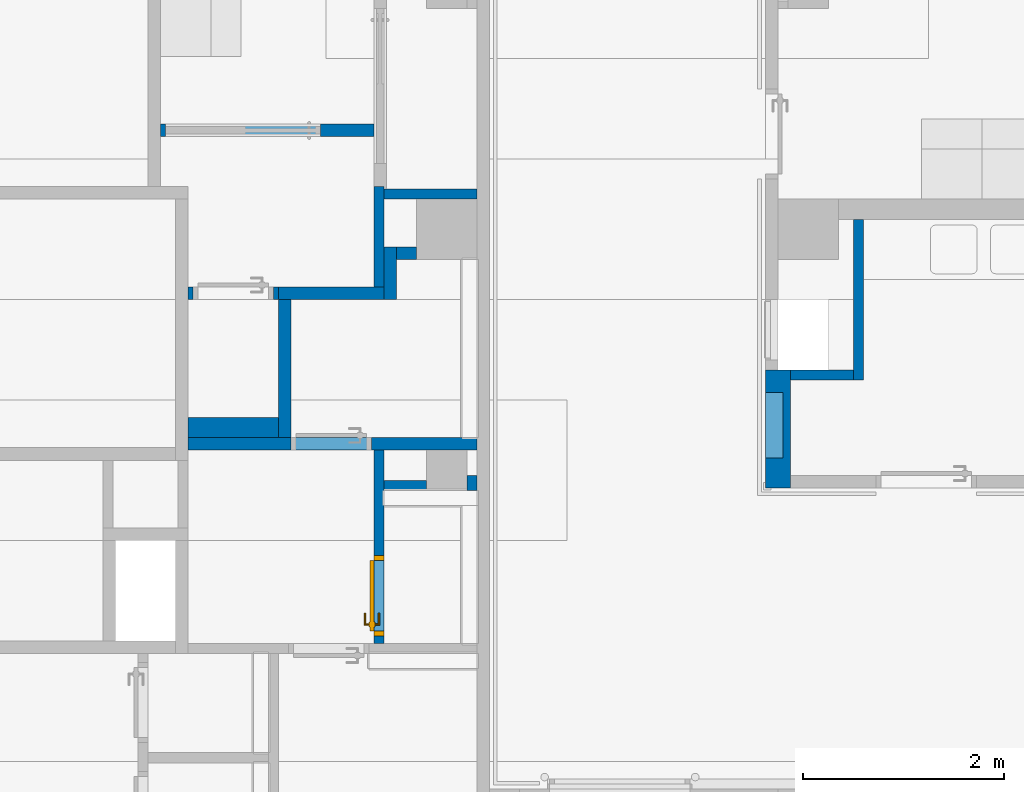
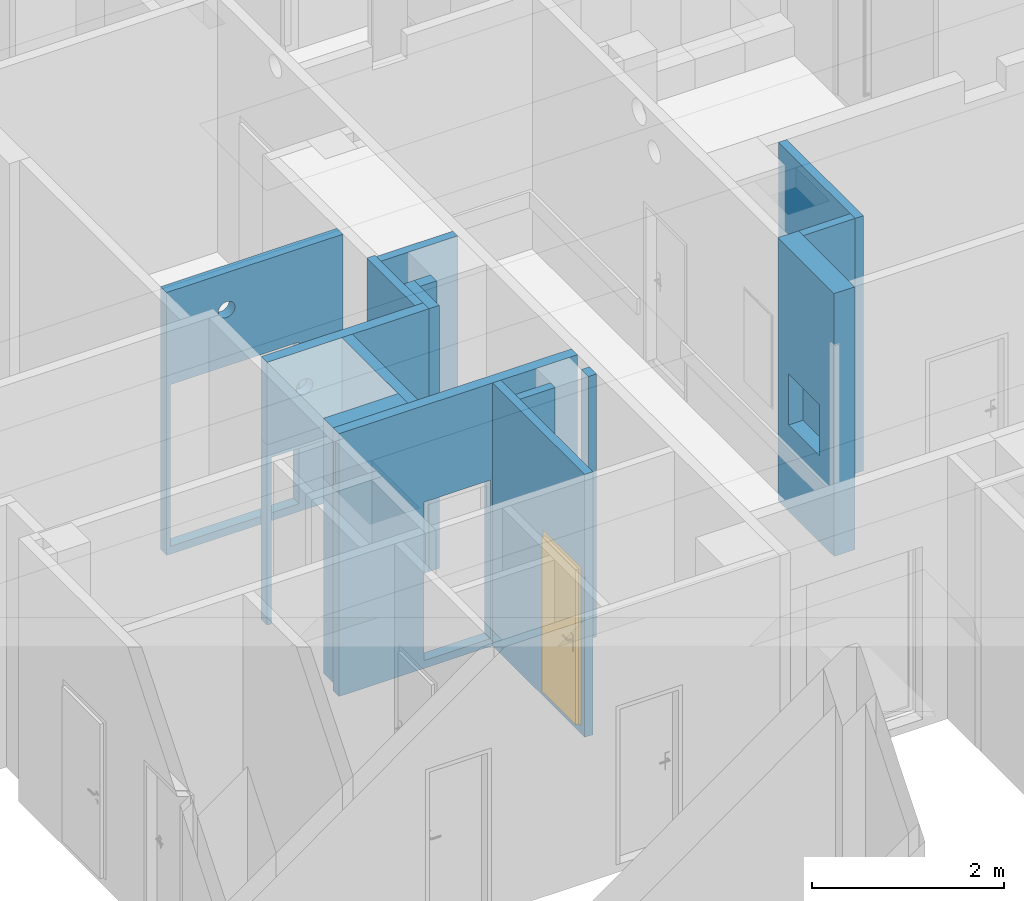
# One storey, part 50 of 140: 16 walls, 1 door, 8 openings.
"""IFC4 building model written with IfcOpenShell, lengths in metres."""

from ifc_helpers import new_model, entity, si_unit, converted_unit, derived_unit, frame, frame_2d, origin, origin_with_axes, place, context, subcontext, project, spatial, polyline, rectangle, outline, extrude, closed_shell, open_shell, surface_model, source, transform, mapped, material, layer, layer_set, layer_usage, type_object, element, fill, save


model = new_model("IFC4")

# Units and contexts
model_context = context("Model", 3, precision=1e-05, world=origin())
body_context = subcontext(model_context, "Body", "Model", "MODEL_VIEW")
ifc_project = project(units=[si_unit("LENGTHUNIT", "METRE"), si_unit("AREAUNIT", "SQUARE_METRE"), si_unit("VOLUMEUNIT", "CUBIC_METRE"), si_unit("MASSUNIT", "GRAM", prefix="KILO"), converted_unit("PLANEANGLEUNIT", "DEGREE", entity("IfcPlaneAngleMeasure", 0.0174532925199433), si_unit("PLANEANGLEUNIT", "RADIAN"), dimensions=[0, 0, 0, 0, 0, 0, 0]), derived_unit("THERMALTRANSMITTANCEUNIT", [(si_unit("POWERUNIT", "WATT"), 1), (si_unit("THERMODYNAMICTEMPERATUREUNIT", "KELVIN"), -1), (si_unit("LENGTHUNIT", "METRE"), -2)]), derived_unit("VOLUMETRICFLOWRATEUNIT", [(si_unit("LENGTHUNIT", "METRE"), 3), (converted_unit("TIMEUNIT", "hour", entity("IfcTimeMeasure", 3600.0), si_unit("TIMEUNIT", "SECOND"), dimensions=[0, 0, 1, 0, 0, 0, 0]), -1), (si_unit("LENGTHUNIT", "METRE"), -1)])], contexts=[model_context])

# Site, building, storey
site_placement = place(None, origin())
site = spatial("IfcSite", under=ifc_project, at=site_placement, Name="3. ASŘ", CompositionType="ELEMENT")
building_placement = place(site_placement, origin())
building = spatial("IfcBuilding", under=site, at=building_placement, Name="Pavilon C", CompositionType="ELEMENT")
storey_placement = place(building_placement, origin())
storey = spatial("IfcBuildingStorey", under=building, at=storey_placement, Name="Půdorys 1.NP", CompositionType="ELEMENT", Elevation=0.0)

# Walls
ifc_material_1 = material(Name="YTONG 100")
ifc_layer_1 = layer(ifc_material_1, 0.1)
ifc_layer_set_1 = layer_set([ifc_layer_1])
ifc_layer_usage_1 = layer_usage(ifc_layer_set_1, "AXIS2", "POSITIVE", 0.0)
wall_1_placement = place(storey_placement, frame((39.725, 16.6, -0.1)))
element("IfcWall", 1, at=wall_1_placement, inside=storey, material=ifc_layer_usage_1, Name="YTONG 100", context=body_context, shape_type="SweptSolid", body=[
    extrude(rectangle(XDim=0.425, YDim=0.1, at=frame_2d((0.2125, 0.05), x_axis=(1.0, 0.0))), origin_with_axes(), (0.0, 0.0, 1.0), 3.35),
])
ifc_material_2 = material(Name="ZDIVO Z CDm")
ifc_layer_2 = layer(ifc_material_2, 0.15)
ifc_layer_set_2 = layer_set([ifc_layer_2])
ifc_layer_usage_2 = layer_usage(ifc_layer_set_2, "AXIS2", "POSITIVE", 0.0)
wall_2_placement = place(storey_placement, frame((40.55, 16.6, -0.1)))
element("IfcWall", 2, at=wall_2_placement, inside=storey, material=ifc_layer_usage_2, Name="ZDIVO Z CDm", context=body_context, shape_type="SweptSolid", body=[
    extrude(rectangle(XDim=0.1, YDim=0.15, at=frame_2d((0.05, 0.075), x_axis=(1.0, 0.0))), origin_with_axes(), (0.0, 0.0, 1.0), 3.35),
])

# Wall, opening, door
ifc_material_3 = material(Name="YTONG 100")
ifc_layer_3 = layer(ifc_material_3, 0.1)
ifc_layer_set_3 = layer_set([ifc_layer_3])
ifc_layer_usage_3 = layer_usage(ifc_layer_set_3, "AXIS2", "POSITIVE", 0.0)
wall_3_placement = place(storey_placement, frame((39.725, 15.075, -0.1), z_axis=(0.0, 0.0, 1.0), x_axis=(0.0, 1.0, 0.0)))
wall_3 = element("IfcWall", 3, at=wall_3_placement, inside=storey, material=ifc_layer_usage_3, Name="YTONG 100", context=body_context, shape_type="SweptSolid", body=[
    extrude(rectangle(XDim=1.925, YDim=0.1, at=frame_2d((0.9625, 0.05), x_axis=(1.0, 0.0))), origin_with_axes(), (0.0, 0.0, 1.0), 3.35),
])
opening_1_placement = place(wall_3_placement, frame((0.0749999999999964, 0.0, 0.1), z_axis=(0.0, 1.0, 0.0), x_axis=(0.0, 0.0, 1.0)))
opening_1 = element("IfcOpeningElement", 4, at=opening_1_placement, cuts=wall_3, Name="Dveřní otvor", ObjectType="Opening", context=body_context, shape_type="SweptSolid", body=[
    extrude(outline(polyline([(0.0, 0.8), (2.02, 0.8), (2.02, 0.0), (0.0, 0.0), (0.0, 0.8)])), origin_with_axes(), (0.0, 0.0, 1.0), 0.1),
])
door_type = type_object("IfcDoorType", Name="D101", OperationType="NOTDEFINED", ParameterTakesPrecedence=False, PredefinedType="DOOR")
shared_shape = source(origin_with_axes(), body_context, "Body", "SurfaceModel", [
    surface_model("IfcShellBasedSurfaceModel", [(0.0, 0.1, 2.02), (0.0, 0.1, -6.12323399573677e-18), (0.05, 0.1, -6.12323399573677e-18), (0.05, 0.1, 2.02), (0.0, 0.0, 6.12323399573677e-18), (0.0, 2.41584530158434e-16, 2.02), (0.05, 2.41584530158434e-16, 2.02), (0.05, 0.0, 6.12323399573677e-18)], [closed_shell([[[0, 1, 2, 3]], [[4, 5, 6, 7]], [[1, 0, 5, 4]], [[2, 1, 4, 7]], [[3, 2, 7, 6]], [[0, 3, 6, 5]]], orient=[[False], [False], [False], [False], [False], [False]])]),
    surface_model("IfcShellBasedSurfaceModel", [(0.75, 0.1, 2.02), (0.75, 0.1, -6.12323399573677e-18), (0.8, 0.1, -6.12323399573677e-18), (0.8, 0.1, 2.02), (0.75, 0.0, 6.12323399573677e-18), (0.75, 2.41584530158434e-16, 2.02), (0.8, 2.41584530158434e-16, 2.02), (0.8, 0.0, 6.12323399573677e-18)], [closed_shell([[[0, 1, 2, 3]], [[4, 5, 6, 7]], [[1, 0, 5, 4]], [[2, 1, 4, 7]], [[3, 2, 7, 6]], [[0, 3, 6, 5]]], orient=[[False], [False], [False], [False], [False], [False]])]),
    surface_model("IfcShellBasedSurfaceModel", [(0.05, 0.1, 2.02), (0.05, 0.1, 1.97), (0.75, 0.1, 1.97), (0.75, 0.1, 2.02), (0.05, 2.41584530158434e-16, 1.97), (0.05, 2.41584530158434e-16, 2.02), (0.75, 2.41584530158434e-16, 2.02), (0.75, 2.41584530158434e-16, 1.97)], [closed_shell([[[0, 1, 2, 3]], [[4, 5, 6, 7]], [[1, 0, 5, 4]], [[2, 1, 4, 7]], [[3, 2, 7, 6]], [[0, 3, 6, 5]]], orient=[[False], [False], [False], [False], [False], [False]])]),
    surface_model("IfcShellBasedSurfaceModel", [(0.05, 0.14, 1.97), (0.05, 0.14, -1.10218211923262e-17), (0.75, 0.14, -1.10218211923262e-17), (0.75, 0.14, 1.97), (0.05, 0.1, -6.12323399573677e-18), (0.05, 0.1, 1.97), (0.75, 0.1, 1.97), (0.75, 0.1, -6.12323399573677e-18)], [closed_shell([[[0, 1, 2, 3]], [[4, 5, 6, 7]], [[1, 0, 5, 4]], [[2, 1, 4, 7]], [[3, 2, 7, 6]], [[0, 3, 6, 5]]], orient=[[False], [False], [False], [False], [False], [False]])]),
    surface_model("IfcShellBasedSurfaceModel", [(0.66, 0.1, 1.125), (0.66, 0.1, 0.91), (0.71, 0.1, 0.91), (0.71, 0.1, 1.125), (0.66, 0.0900000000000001, 0.91), (0.66, 0.0900000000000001, 1.125), (0.71, 0.0900000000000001, 1.125), (0.71, 0.0900000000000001, 0.91)], [closed_shell([[[0, 1, 2, 3]], [[4, 5, 6, 7]], [[1, 0, 5, 4]], [[2, 1, 4, 7]], [[3, 2, 7, 6]], [[0, 3, 6, 5]]], orient=[[False], [False], [False], [False], [False], [False]])]),
    surface_model("IfcShellBasedSurfaceModel", [(0.685, 0.0900000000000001, 1.06), (0.68, 0.0900000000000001, 1.05866025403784), (0.676339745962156, 0.0900000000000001, 1.055), (0.675, 0.0900000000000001, 1.05), (0.676339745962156, 0.0900000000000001, 1.045), (0.68, 0.0900000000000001, 1.04133974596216), (0.685, 0.0900000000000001, 1.04), (0.69, 0.0900000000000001, 1.04133974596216), (0.693660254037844, 0.0900000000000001, 1.045), (0.695, 0.0900000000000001, 1.05), (0.693660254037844, 0.0900000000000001, 1.055), (0.69, 0.0900000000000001, 1.05866025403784), (0.69, 0.0450000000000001, 1.05866025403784), (0.685, 0.0500000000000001, 1.06), (0.693660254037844, 0.0413397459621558, 1.055), (0.695, 0.0400000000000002, 1.05), (0.693660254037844, 0.0413397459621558, 1.045), (0.69, 0.0450000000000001, 1.04133974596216), (0.685, 0.0500000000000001, 1.04), (0.68, 0.0550000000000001, 1.04133974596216), (0.676339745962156, 0.0586602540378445, 1.045), (0.675, 0.0600000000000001, 1.05), (0.676339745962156, 0.0586602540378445, 1.055), (0.68, 0.0550000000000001, 1.05866025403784), (0.57, 0.0450000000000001, 1.05866025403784), (0.57, 0.0500000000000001, 1.06), (0.57, 0.0413397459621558, 1.055), (0.57, 0.0400000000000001, 1.05), (0.57, 0.0413397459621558, 1.045), (0.57, 0.0450000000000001, 1.04133974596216), (0.57, 0.0500000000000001, 1.04), (0.57, 0.0550000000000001, 1.04133974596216), (0.57, 0.0586602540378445, 1.045), (0.57, 0.0600000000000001, 1.05), (0.57, 0.0586602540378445, 1.055), (0.57, 0.0550000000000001, 1.05866025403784)], [open_shell([[[0, 1, 2, 3, 4, 5, 6, 7, 8, 9, 10, 11]], [[0, 11, 12, 13]], [[11, 10, 14, 12]], [[10, 9, 15, 14]], [[9, 8, 16, 15]], [[8, 7, 17, 16]], [[7, 6, 18, 17]], [[6, 5, 19, 18]], [[5, 4, 20, 19]], [[4, 3, 21, 20]], [[3, 2, 22, 21]], [[2, 1, 23, 22]], [[1, 0, 13, 23]], [[13, 12, 24, 25]], [[12, 14, 26, 24]], [[14, 15, 27, 26]], [[15, 16, 28, 27]], [[16, 17, 29, 28]], [[17, 18, 30, 29]], [[18, 19, 31, 30]], [[19, 20, 32, 31]], [[20, 21, 33, 32]], [[21, 22, 34, 33]], [[22, 23, 35, 34]], [[23, 13, 25, 35]]], orient=[[False], [False], [False], [False], [False], [False], [False], [False], [False], [False], [False], [False], [False], [False], [False], [False], [False], [False], [False], [False], [False], [False], [False], [False], [False]])]),
    surface_model("IfcShellBasedSurfaceModel", [(0.66, 0.14, 1.125), (0.71, 0.14, 1.125), (0.71, 0.14, 0.91), (0.66, 0.14, 0.91), (0.66, 0.15, 0.91), (0.71, 0.15, 0.91), (0.71, 0.15, 1.125), (0.66, 0.15, 1.125)], [closed_shell([[[0, 1, 2, 3]], [[4, 5, 6, 7]], [[3, 4, 7, 0]], [[2, 5, 4, 3]], [[1, 6, 5, 2]], [[0, 7, 6, 1]]], orient=[[False], [False], [False], [False], [False], [False]])]),
    surface_model("IfcShellBasedSurfaceModel", [(0.685, 0.15, 1.06), (0.69, 0.15, 1.05866025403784), (0.693660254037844, 0.15, 1.055), (0.695, 0.15, 1.05), (0.693660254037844, 0.15, 1.045), (0.69, 0.15, 1.04133974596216), (0.685, 0.15, 1.04), (0.68, 0.15, 1.04133974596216), (0.676339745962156, 0.15, 1.045), (0.675, 0.15, 1.05), (0.676339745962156, 0.15, 1.055), (0.68, 0.15, 1.05866025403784), (0.685, 0.19, 1.06), (0.69, 0.195, 1.05866025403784), (0.693660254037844, 0.198660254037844, 1.055), (0.695, 0.2, 1.05), (0.693660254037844, 0.198660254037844, 1.045), (0.69, 0.195, 1.04133974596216), (0.685, 0.19, 1.04), (0.68, 0.185, 1.04133974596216), (0.676339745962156, 0.181339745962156, 1.045), (0.675, 0.18, 1.05), (0.676339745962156, 0.181339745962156, 1.055), (0.68, 0.185, 1.05866025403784), (0.57, 0.19, 1.06), (0.57, 0.195, 1.05866025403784), (0.57, 0.198660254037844, 1.055), (0.57, 0.2, 1.05), (0.57, 0.198660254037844, 1.045), (0.57, 0.195, 1.04133974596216), (0.57, 0.19, 1.04), (0.57, 0.185, 1.04133974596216), (0.57, 0.181339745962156, 1.045), (0.57, 0.18, 1.05), (0.57, 0.181339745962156, 1.055), (0.57, 0.185, 1.05866025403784)], [open_shell([[[0, 1, 2, 3, 4, 5, 6, 7, 8, 9, 10, 11]], [[0, 12, 13, 1]], [[1, 13, 14, 2]], [[2, 14, 15, 3]], [[3, 15, 16, 4]], [[4, 16, 17, 5]], [[5, 17, 18, 6]], [[6, 18, 19, 7]], [[7, 19, 20, 8]], [[8, 20, 21, 9]], [[9, 21, 22, 10]], [[10, 22, 23, 11]], [[11, 23, 12, 0]], [[12, 24, 25, 13]], [[13, 25, 26, 14]], [[14, 26, 27, 15]], [[15, 27, 28, 16]], [[16, 28, 29, 17]], [[17, 29, 30, 18]], [[18, 30, 31, 19]], [[19, 31, 32, 20]], [[20, 32, 33, 21]], [[21, 33, 34, 22]], [[22, 34, 35, 23]], [[23, 35, 24, 12]]], orient=[[False], [False], [False], [False], [False], [False], [False], [False], [False], [False], [False], [False], [False], [False], [False], [False], [False], [False], [False], [False], [False], [False], [False], [False], [False]])]),
])
door_placement = place(opening_1_placement, frame((0.0, 0.799999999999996, 1.45519152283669e-14), z_axis=(1.0, 0.0, 0.0), x_axis=(0.0, -1.0, 1.22464679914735e-16)))
door = element("IfcDoor", 5, at=door_placement, inside=storey, type_object=door_type, Name="D101", OverallHeight=2.02, OverallWidth=0.8, context=body_context, shape_type="MappedRepresentation", body=[
    mapped(shared_shape, transform((0.0, 0.0, 0.0), x_axis=(1.0, 0.0, 0.0), y_axis=(0.0, -1.0, 0.0), z_axis=(0.0, 0.0, 1.0), scale=1.0)),
])
fill(opening_1, door)

# Walls
ifc_material_4 = material(Name="ZDIVO Z CDm")
ifc_layer_4 = layer(ifc_material_4, 0.125)
ifc_layer_set_4 = layer_set([ifc_layer_4])
ifc_layer_usage_4 = layer_usage(ifc_layer_set_4, "AXIS2", "POSITIVE", 0.0)
wall_4_placement = place(storey_placement, frame((39.85, 18.9, -0.1)))
element("IfcWall", 6, at=wall_4_placement, inside=storey, material=ifc_layer_usage_4, Name="ZDIVO Z CDm", context=body_context, shape_type="SweptSolid", body=[
    extrude(rectangle(XDim=0.2, YDim=0.125, at=frame_2d((0.1, 0.0625), x_axis=(1.0, 0.0))), origin_with_axes(), (0.0, 0.0, 1.0), 3.35),
])
ifc_material_5 = material(Name="ZDIVO Z CDm")
ifc_layer_5 = layer(ifc_material_5, 0.125)
ifc_layer_set_5 = layer_set([ifc_layer_5])
ifc_layer_usage_5 = layer_usage(ifc_layer_set_5, "AXIS2", "POSITIVE", 0.0)
wall_5_placement = place(storey_placement, frame((38.8, 17.125, -0.1), z_axis=(0.0, 0.0, 1.0), x_axis=(0.0, 1.0, 0.0)))
element("IfcWall", 7, at=wall_5_placement, inside=storey, material=ifc_layer_usage_5, Name="ZDIVO Z CDm", context=body_context, shape_type="SweptSolid", body=[
    extrude(rectangle(XDim=1.375, YDim=0.125, at=frame_2d((0.6875, 0.0625), x_axis=(1.0, 0.0))), origin_with_axes(), (0.0, 0.0, 1.0), 3.35),
])

# Wall, opening
ifc_material_6 = material(Name="ZDIVO Z CDm")
ifc_layer_6 = layer(ifc_material_6, 0.125)
ifc_layer_set_6 = layer_set([ifc_layer_6])
ifc_layer_usage_6 = layer_usage(ifc_layer_set_6, "AXIS2", "POSITIVE", 0.0)
wall_6_placement = place(storey_placement, frame((37.775, 17.0, -0.1)))
wall_6 = element("IfcWall", 8, at=wall_6_placement, inside=storey, material=ifc_layer_usage_6, Name="ZDIVO Z CDm", context=body_context, shape_type="SweptSolid", body=[
    extrude(rectangle(XDim=2.875, YDim=0.125, at=frame_2d((1.4375, 0.0625), x_axis=(1.0, 0.0))), origin_with_axes(), (0.0, 0.0, 1.0), 3.35),
])
opening_2_placement = place(wall_6_placement, frame((1.825, 0.125, 0.1), z_axis=(0.0, -1.0, 0.0), x_axis=(0.0, 0.0, 1.0)))
element("IfcOpeningElement", 9, at=opening_2_placement, cuts=wall_6, Name="Dveřní otvor", ObjectType="Opening", context=body_context, shape_type="SweptSolid", body=[
    extrude(outline(polyline([(0.0, 0.8), (2.02, 0.8), (2.02, 0.0), (0.0, 0.0), (0.0, 0.8)])), origin_with_axes(), (0.0, 0.0, 1.0), 0.125),
])

# Wall, openings
ifc_material_7 = material(Name="ZDIVO Z CDm")
ifc_layer_7 = layer(ifc_material_7, 0.125)
ifc_layer_set_7 = layer_set([ifc_layer_7])
ifc_layer_usage_7 = layer_usage(ifc_layer_set_7, "AXIS2", "POSITIVE", 0.0)
wall_7_placement = place(storey_placement, frame((37.775, 18.5, -0.1)))
wall_7 = element("IfcWall", 10, at=wall_7_placement, inside=storey, material=ifc_layer_usage_7, Name="ZDIVO Z CDm", context=body_context, shape_type="SweptSolid", body=[
    extrude(rectangle(XDim=1.95, YDim=0.125, at=frame_2d((0.975, 0.0625), x_axis=(1.0, 0.0))), origin_with_axes(), (0.0, 0.0, 1.0), 3.35),
])
opening_3_placement = place(wall_7_placement, frame((0.349452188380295, -3.63797880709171e-15, 2.78), z_axis=(0.0, 1.0, 0.0), x_axis=(0.0, 0.0, 1.0)))
element("IfcOpeningElement", 11, at=opening_3_placement, cuts=wall_7, Name="VZT", ObjectType="Opening", context=body_context, shape_type="SweptSolid", body=[
    extrude(outline(polyline([(0.0999999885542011, 0.0), (0.0895471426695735, 0.000547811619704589), (0.0792088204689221, 0.00218524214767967), (0.0690982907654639, 0.0048943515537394), (0.0593263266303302, 0.00864545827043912), (0.0499999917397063, 0.0133974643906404), (0.0412214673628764, 0.0190983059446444), (0.0330869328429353, 0.0256855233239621), (0.0256855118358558, 0.0330869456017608), (0.0190982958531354, 0.0412214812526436), (0.0133974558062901, 0.0500000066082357), (0.00864545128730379, 0.0593263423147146), (0.00489434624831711, 0.0690983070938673), (0.00218523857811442, 0.0792088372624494), (0.000547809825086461, 0.0895471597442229), (0.0, 0.100000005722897), (0.000547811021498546, 0.110452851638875), (0.00218524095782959, 0.120791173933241), (0.00489434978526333, 0.130901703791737), (0.00864545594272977, 0.140673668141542), (0.0133974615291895, 0.150000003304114), (0.0190983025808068, 0.158778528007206), (0.0256855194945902, 0.166913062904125), (0.0330869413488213, 0.174314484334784), (0.0412214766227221, 0.180901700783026), (0.0500000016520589, 0.186602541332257), (0.0593263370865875, 0.191354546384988), (0.0690983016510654, 0.195105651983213), (0.0792088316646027, 0.197814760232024), (0.0895471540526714, 0.199452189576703), (0.1, 0.2), (0.110452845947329, 0.199452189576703), (0.120791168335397, 0.197814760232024), (0.130901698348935, 0.195105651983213), (0.140673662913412, 0.191354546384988), (0.149999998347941, 0.186602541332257), (0.158778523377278, 0.180901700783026), (0.166913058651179, 0.174314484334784), (0.17431448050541, 0.166913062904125), (0.180901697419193, 0.158778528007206), (0.18660253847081, 0.150000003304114), (0.19135454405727, 0.140673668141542), (0.195105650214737, 0.130901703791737), (0.19781475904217, 0.120791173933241), (0.199452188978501, 0.110452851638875), (0.2, 0.100000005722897), (0.199452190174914, 0.0895471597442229), (0.197814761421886, 0.0792088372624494), (0.195105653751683, 0.0690983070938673), (0.191354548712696, 0.0593263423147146), (0.18660254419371, 0.0500000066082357), (0.180901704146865, 0.0412214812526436), (0.174314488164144, 0.0330869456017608), (0.166913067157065, 0.0256855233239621), (0.158778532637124, 0.0190983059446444), (0.150000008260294, 0.0133974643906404), (0.14067367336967, 0.00864545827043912), (0.130901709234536, 0.0048943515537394), (0.120791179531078, 0.00218524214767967), (0.110452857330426, 0.000547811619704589), (0.0999999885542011, 0.0)])), origin_with_axes(), (0.0, 0.0, 1.0), 0.125),
])
opening_4_placement = place(wall_7_placement, frame((0.9, 0.125, 0.0), z_axis=(0.0, -1.0, 0.0), x_axis=(0.0, 0.0, 1.0)))
element("IfcOpeningElement", 12, at=opening_4_placement, cuts=wall_7, Name="Dveřní otvor", ObjectType="Opening", context=body_context, shape_type="SweptSolid", body=[
    extrude(outline(polyline([(0.0, 0.9), (2.3, 0.9), (2.3, 0.0), (0.0, 0.0), (0.0, 0.9)])), origin_with_axes(), (0.0, 0.0, 1.0), 0.125),
])

# Wall
ifc_material_8 = material(Name="ZDIVO Z CDm")
ifc_layer_8 = layer(ifc_material_8, 0.125)
ifc_layer_set_8 = layer_set([ifc_layer_8])
ifc_layer_usage_8 = layer_usage(ifc_layer_set_8, "AXIS2", "POSITIVE", 0.0)
wall_8_placement = place(storey_placement, frame((39.85, 18.5, -0.1), z_axis=(0.0, 0.0, 1.0), x_axis=(0.0, 1.0, 0.0)))
element("IfcWall", 13, at=wall_8_placement, inside=storey, material=ifc_layer_usage_8, Name="ZDIVO Z CDm", context=body_context, shape_type="SweptSolid", body=[
    extrude(rectangle(XDim=0.525, YDim=0.125, at=frame_2d((0.2625, 0.0625), x_axis=(1.0, 0.0))), origin_with_axes(), (0.0, 0.0, 1.0), 3.35),
])

# Wall, opening
ifc_material_9 = material(Name="YTONG 125")
ifc_layer_9 = layer(ifc_material_9, 0.125)
ifc_layer_set_9 = layer_set([ifc_layer_9])
ifc_layer_usage_9 = layer_usage(ifc_layer_set_9, "AXIS2", "POSITIVE", 0.0)
wall_9_placement = place(storey_placement, frame((37.775, 18.5, -0.1)))
wall_9 = element("IfcWall", 14, at=wall_9_placement, inside=storey, material=ifc_layer_usage_9, Name="YTONG 125", context=body_context, shape_type="SweptSolid", body=[
    extrude(rectangle(XDim=0.9, YDim=0.125, at=frame_2d((0.45, 0.0625), x_axis=(1.0, 0.0))), origin_with_axes(), (0.0, 0.0, 1.0), 2.3),
])
opening_5_placement = place(wall_9_placement, frame((0.05, 0.0, 0.0), z_axis=(0.0, 1.0, 0.0), x_axis=(0.0, 0.0, 1.0)))
element("IfcOpeningElement", 15, at=opening_5_placement, cuts=wall_9, Name="Dveřní otvor", ObjectType="Opening", context=body_context, shape_type="SweptSolid", body=[
    extrude(outline(polyline([(0.0, 0.8), (2.12, 0.8), (2.12, 0.0), (0.0, 0.0), (0.0, 0.8)])), origin_with_axes(), (0.0, 0.0, 1.0), 0.125),
])

# Walls
ifc_material_10 = material(Name="SDK INSTAL. PŘDSTĚNA VYSOKÁ")
ifc_layer_10 = layer(ifc_material_10, 0.2)
ifc_layer_set_10 = layer_set([ifc_layer_10])
ifc_layer_usage_10 = layer_usage(ifc_layer_set_10, "AXIS2", "POSITIVE", 0.0)
wall_10_placement = place(storey_placement, frame((37.775, 17.125, 0.0)))
element("IfcWall", 16, at=wall_10_placement, inside=storey, material=ifc_layer_usage_10, Name="SDK INSTAL. PŘDSTĚNA VYSOKÁ", context=body_context, shape_type="SweptSolid", body=[
    extrude(rectangle(XDim=0.9, YDim=0.2, at=frame_2d((0.45, 0.1), x_axis=(1.0, 0.0))), origin_with_axes(), (0.0, 0.0, 1.0), 3.25),
])
ifc_material_11 = material(Name="SDK ŠACHTOVÁ STĚNA/SDK OPL. S PO")
ifc_layer_11 = layer(ifc_material_11, 0.1)
ifc_layer_set_11 = layer_set([ifc_layer_11])
ifc_layer_usage_11 = layer_usage(ifc_layer_set_11, "AXIS2", "POSITIVE", 0.0)
wall_11_placement = place(storey_placement, frame((44.4, 17.8, 0.0), z_axis=(0.0, 0.0, 1.0), x_axis=(-1.0, 0.0, 0.0)))
element("IfcWall", 17, at=wall_11_placement, inside=storey, material=ifc_layer_usage_11, Name="SDK ŠACHTOVÁ STĚNA/SDK OPL. S PO", context=body_context, shape_type="SweptSolid", body=[
    extrude(rectangle(XDim=0.625, YDim=0.1, at=frame_2d((0.3125, 0.05), x_axis=(1.0, 0.0))), origin_with_axes(), (0.0, 0.0, 1.0), 3.25),
])
ifc_material_12 = material(Name="SDK ŠACHTOVÁ STĚNA/SDK OPL. S PO")
ifc_layer_12 = layer(ifc_material_12, 0.1)
ifc_layer_set_12 = layer_set([ifc_layer_12])
ifc_layer_usage_12 = layer_usage(ifc_layer_set_12, "AXIS2", "POSITIVE", 0.0)
wall_12_placement = place(storey_placement, frame((44.4, 19.3, 0.0), z_axis=(0.0, 0.0, 1.0), x_axis=(0.0, -1.0, 0.0)))
element("IfcWall", 18, at=wall_12_placement, inside=storey, material=ifc_layer_usage_12, Name="SDK ŠACHTOVÁ STĚNA/SDK OPL. S PO", context=body_context, shape_type="SweptSolid", body=[
    extrude(rectangle(XDim=1.6, YDim=0.1, at=frame_2d((0.799999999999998, 0.05), x_axis=(1.0, 0.0))), origin_with_axes(), (0.0, 0.0, 1.0), 3.25),
])

# Wall, opening
ifc_material_13 = material(Name="SDK - 2 KCE + DVOJITÉ OPLÁŠTĚNÍ")
ifc_layer_13 = layer(ifc_material_13, 0.25)
ifc_layer_set_13 = layer_set([ifc_layer_13])
ifc_layer_usage_13 = layer_usage(ifc_layer_set_13, "AXIS2", "POSITIVE", 0.0)
wall_13_placement = place(storey_placement, frame((43.525, 17.8, -0.1), z_axis=(0.0, 0.0, 1.0), x_axis=(0.0, -1.0, 0.0)))
wall_13 = element("IfcWall", 19, at=wall_13_placement, inside=storey, material=ifc_layer_usage_13, Name="SDK - 2 KCE + DVOJITÉ OPLÁŠTĚNÍ", context=body_context, shape_type="SweptSolid", body=[
    extrude(rectangle(XDim=1.175, YDim=0.25, at=frame_2d((0.587500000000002, 0.125), x_axis=(1.0, 0.0))), origin_with_axes(), (0.0, 0.0, 1.0), 3.35),
])
opening_6_placement = place(wall_13_placement, frame((0.225000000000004, 0.0, 1.1), z_axis=(0.0, 1.0, 0.0), x_axis=(0.0, 0.0, 1.0)))
element("IfcOpeningElement", 20, at=opening_6_placement, cuts=wall_13, Name="Stěnová nika", ObjectType="Opening", context=body_context, shape_type="SweptSolid", body=[
    extrude(outline(polyline([(0.0, 0.65), (0.65, 0.65), (0.65, 0.0), (0.0, 0.0), (0.0, 0.65)])), origin_with_axes(), (0.0, 0.0, 1.0), 0.175),
])

# Walls
ifc_material_14 = material(Name="SDK INSTAL. PŘDSTĚNA VYSOKÁ")
ifc_layer_14 = layer(ifc_material_14, 0.1)
ifc_layer_set_14 = layer_set([ifc_layer_14])
ifc_layer_usage_14 = layer_usage(ifc_layer_set_14, "AXIS2", "POSITIVE", 0.0)
wall_14_placement = place(storey_placement, frame((39.725, 18.625, 2.27373675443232e-16), z_axis=(0.0, 0.0, 1.0), x_axis=(0.0, 1.0, 0.0)))
element("IfcWall", 21, at=wall_14_placement, inside=storey, material=ifc_layer_usage_14, Name="SDK INSTAL. PŘDSTĚNA VYSOKÁ", context=body_context, shape_type="SweptSolid", body=[
    extrude(rectangle(XDim=1.0, YDim=0.1, at=frame_2d((0.5, 0.05), x_axis=(1.0, 0.0))), origin_with_axes(), (0.0, 0.0, 1.0), 3.25),
])
ifc_material_15 = material(Name="SDK INSTAL. PŘDSTĚNA VYSOKÁ")
ifc_layer_15 = layer(ifc_material_15, 0.1)
ifc_layer_set_15 = layer_set([ifc_layer_15])
ifc_layer_usage_15 = layer_usage(ifc_layer_set_15, "AXIS2", "POSITIVE", 0.0)
wall_15_placement = place(storey_placement, frame((39.725, 19.5, 0.0)))
element("IfcWall", 22, at=wall_15_placement, inside=storey, material=ifc_layer_usage_15, Name="SDK INSTAL. PŘDSTĚNA VYSOKÁ", context=body_context, shape_type="SweptSolid", body=[
    extrude(rectangle(XDim=0.925, YDim=0.1, at=frame_2d((0.4625, 0.05), x_axis=(1.0, 0.0))), origin_with_axes(), (0.0, 0.0, 1.0), 3.25),
])

# Wall, openings
ifc_material_16 = material(Name="SDK - 1 KCE + DVOJITÉ OPLÁŠTĚNÍ")
ifc_layer_16 = layer(ifc_material_16, 0.125)
ifc_layer_set_16 = layer_set([ifc_layer_16])
ifc_layer_usage_16 = layer_usage(ifc_layer_set_16, "AXIS2", "POSITIVE", 0.0)
wall_16_placement = place(storey_placement, frame((39.625, 20.25, -0.1), z_axis=(0.0, 0.0, 1.0), x_axis=(-1.0, 0.0, 0.0)))
wall_16 = element("IfcWall", 23, at=wall_16_placement, inside=storey, material=ifc_layer_usage_16, Name="SDK - 1 KCE + DVOJITÉ OPLÁŠTĚNÍ", context=body_context, shape_type="SweptSolid", body=[
    extrude(rectangle(XDim=2.125, YDim=0.125, at=frame_2d((1.0625, 0.0625), x_axis=(1.0, 0.0))), origin_with_axes(), (0.0, 0.0, 1.0), 3.35),
])
opening_7_placement = place(wall_16_placement, frame((0.53, 0.0, 0.1), z_axis=(0.0, 1.0, 0.0), x_axis=(0.0, 0.0, 1.0)))
element("IfcOpeningElement", 24, at=opening_7_placement, cuts=wall_16, Name="Dveřní otvor", ObjectType="Opening", context=body_context, shape_type="SweptSolid", body=[
    extrude(outline(polyline([(0.0, 1.545), (2.06, 1.545), (2.06, 0.0), (0.0, 0.0), (0.0, 1.545)])), origin_with_axes(), (0.0, 0.0, 1.0), 0.125),
])
opening_8_placement = place(wall_16_placement, frame((1.5, 0.125, 2.78), z_axis=(0.0, -1.0, 0.0), x_axis=(0.0, 0.0, 1.0)))
element("IfcOpeningElement", 25, at=opening_8_placement, cuts=wall_16, Name="VZT", ObjectType="Opening", context=body_context, shape_type="SweptSolid", body=[
    extrude(outline(polyline([(0.0999999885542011, 0.0), (0.0895471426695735, 0.000547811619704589), (0.0792088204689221, 0.00218524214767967), (0.0690982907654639, 0.0048943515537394), (0.0593263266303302, 0.00864545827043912), (0.0499999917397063, 0.0133974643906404), (0.0412214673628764, 0.0190983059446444), (0.0330869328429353, 0.0256855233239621), (0.0256855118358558, 0.0330869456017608), (0.0190982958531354, 0.0412214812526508), (0.0133974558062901, 0.0500000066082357), (0.00864545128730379, 0.0593263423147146), (0.00489434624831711, 0.0690983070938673), (0.00218523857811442, 0.0792088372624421), (0.000547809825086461, 0.0895471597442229), (0.0, 0.100000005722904), (0.000547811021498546, 0.110452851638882), (0.00218524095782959, 0.120791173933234), (0.00489434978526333, 0.130901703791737), (0.00864545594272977, 0.140673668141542), (0.0133974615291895, 0.150000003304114), (0.0190983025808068, 0.158778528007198), (0.0256855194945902, 0.166913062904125), (0.0330869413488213, 0.174314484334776), (0.0412214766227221, 0.180901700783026), (0.0500000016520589, 0.186602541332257), (0.0593263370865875, 0.191354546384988), (0.0690983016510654, 0.195105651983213), (0.0792088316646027, 0.197814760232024), (0.0895471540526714, 0.19945218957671), (0.1, 0.2), (0.110452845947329, 0.19945218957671), (0.120791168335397, 0.197814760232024), (0.130901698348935, 0.195105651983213), (0.140673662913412, 0.191354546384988), (0.149999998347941, 0.186602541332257), (0.158778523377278, 0.180901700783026), (0.166913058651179, 0.174314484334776), (0.17431448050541, 0.166913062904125), (0.180901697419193, 0.158778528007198), (0.18660253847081, 0.150000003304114), (0.19135454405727, 0.140673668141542), (0.195105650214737, 0.130901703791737), (0.19781475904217, 0.120791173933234), (0.199452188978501, 0.110452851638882), (0.2, 0.100000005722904), (0.199452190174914, 0.0895471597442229), (0.197814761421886, 0.0792088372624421), (0.195105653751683, 0.0690983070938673), (0.191354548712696, 0.0593263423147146), (0.18660254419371, 0.0500000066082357), (0.180901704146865, 0.0412214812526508), (0.174314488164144, 0.0330869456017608), (0.166913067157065, 0.0256855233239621), (0.158778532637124, 0.0190983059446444), (0.150000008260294, 0.0133974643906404), (0.14067367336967, 0.00864545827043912), (0.130901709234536, 0.0048943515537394), (0.120791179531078, 0.00218524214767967), (0.110452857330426, 0.000547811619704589), (0.0999999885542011, 0.0)])), origin_with_axes(), (0.0, 0.0, 1.0), 0.125),
])

save(model, "model.ifc")
